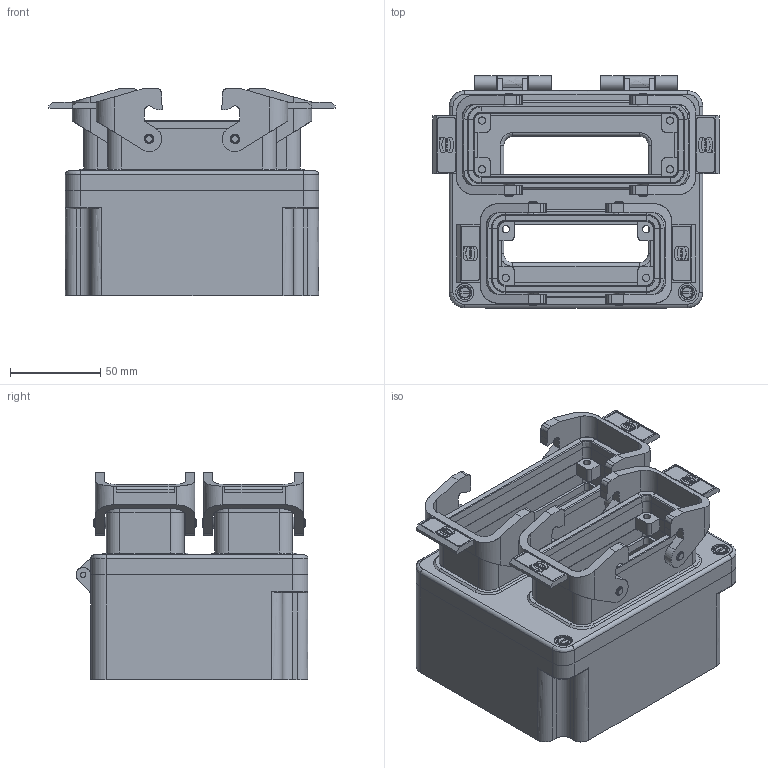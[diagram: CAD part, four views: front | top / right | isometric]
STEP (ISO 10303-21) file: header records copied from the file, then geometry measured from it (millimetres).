
FILE_DESCRIPTION( ( 'STEP AP214' ), '1' );
FILE_NAME( 'C:/Dokumente und Einstellungen/Administrator/Desktop/47 Kabelboxen/G3/18/gr_3_24e_16e-aa.stp', '2006-09-10T19:14:23', ( ' ' ), ( ' ' ), 'XStep 1.0', 'VISICAD', ' ' );
FILE_SCHEMA( ( 'automotive_design' ) );
Length unit declared in the file: millimetre
Products named in the file (1753): 1; 2; 3; 4; 5; 6; 7; 8; 9; 10; 11; 12; 13; 14; 15; 16; 17; 18; 19; 20; 21; 22; 23; 24; 25; 26; 27; 28; 29; 30; 31; 32; 33; 34; 35; 36; 37; 38; 39; 40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
Bounding box: 158.1 x 128.2 x 114.6 mm (x, y, z)
Surface area: 191857.8 mm2 (no closed solid volume)
Topology: 0 solids, 1763 shells, 1763 faces, 8878 edges, 8862 vertices
Faces by surface type: plane 1043, bspline 458, cylinder 168, revolution 94
Full cylindrical faces by diameter (mm): 0.76 x4, 0.84 x4, 5.1 x8
Entity records: 178728 total; most frequent: CARTESIAN_POINT 72691, DIRECTION 13106, ORIENTED_EDGE 8862, EDGE_CURVE 8862, VERTEX_POINT 8862, LINE 5968, VECTOR 5968, AXIS2_PLACEMENT_3D 3522
